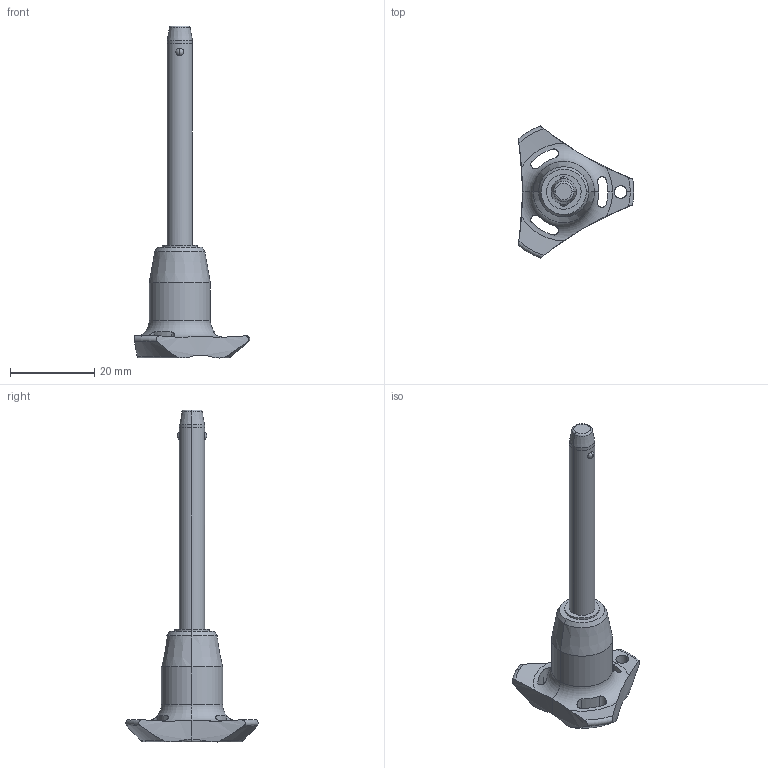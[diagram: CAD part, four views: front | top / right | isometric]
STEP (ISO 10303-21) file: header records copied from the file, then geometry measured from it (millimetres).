
FILE_DESCRIPTION (( 'STEP AP203' ), '1' );
FILE_NAME ('QR1716.M06-045-T.step', '2025-11-13T10:28:14', ( '' ), ( '' ), 'SwSTEP 2.0', 'SolidWorks 2019', '' );
FILE_SCHEMA (( 'CONFIG_CONTROL_DESIGN' ));
Length unit declared in the file: millimetre
Products named in the file (1): QR1716.M06-045-T
Bounding box: 27.4 x 31.31 x 78.7 mm (x, y, z)
Volume: 6238.3 mm3; surface area: 3401.1 mm2
Topology: 1 solids, 1 shells, 69 faces, 187 edges, 119 vertices
Faces by surface type: cylinder 32, cone 14, torus 12, sphere 6, plane 5
Entity records: 2789 total; most frequent: CARTESIAN_POINT 1010, ORIENTED_EDGE 374, DIRECTION 348, EDGE_CURVE 187, AXIS2_PLACEMENT_3D 155, VERTEX_POINT 119, CIRCLE 85, EDGE_LOOP 76
